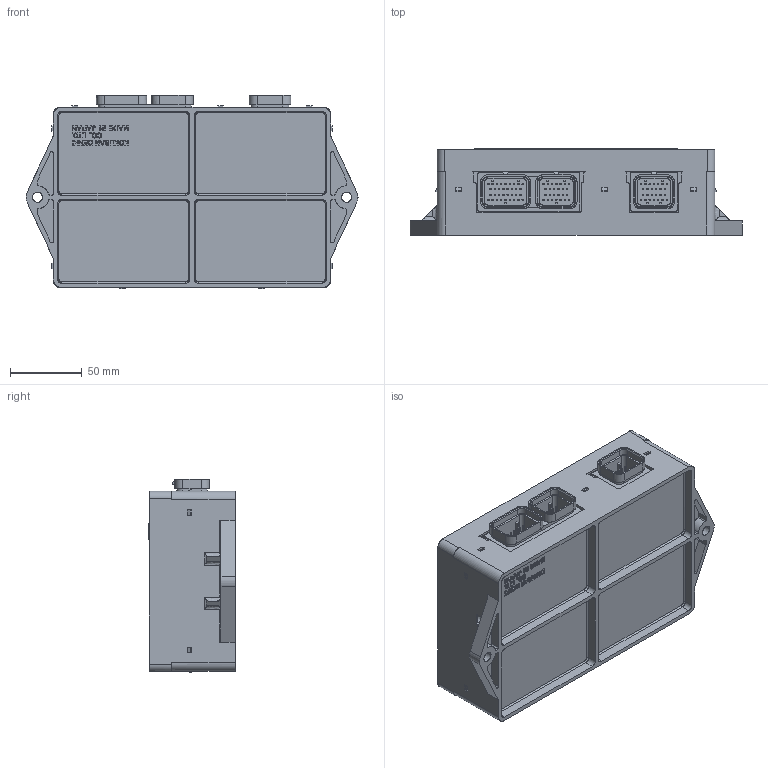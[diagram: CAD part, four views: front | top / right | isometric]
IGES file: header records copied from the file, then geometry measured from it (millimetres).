
Start section:  PTC IGES file: 164000-1001-1.igs
Global section: file name: C:\Documents and Settings\yy060262\; native system: Rhinoceros ( Aug  7 2001 ); preprocessor: Trout Lake IGES 012 Aug  7 2001; date: 120406.054049; units: millimetre
Bounding box: 232 x 60.5 x 135.4 mm (x, y, z)
Surface area: 210378.1 mm2 (no closed solid volume)
Topology: 0 solids, 0 shells, 2198 faces, 23383 edges, 23373 vertices
Faces by surface type: bspline 2198
